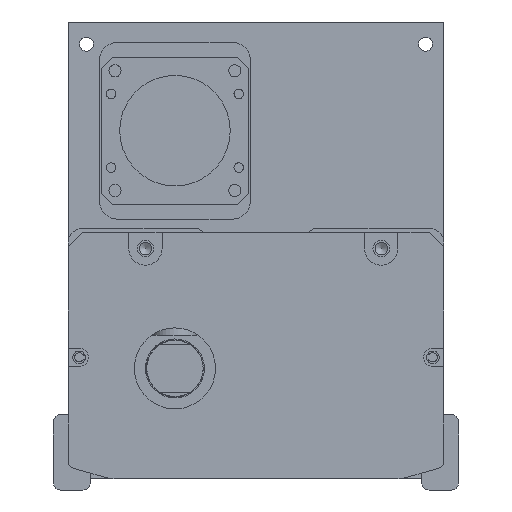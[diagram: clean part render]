
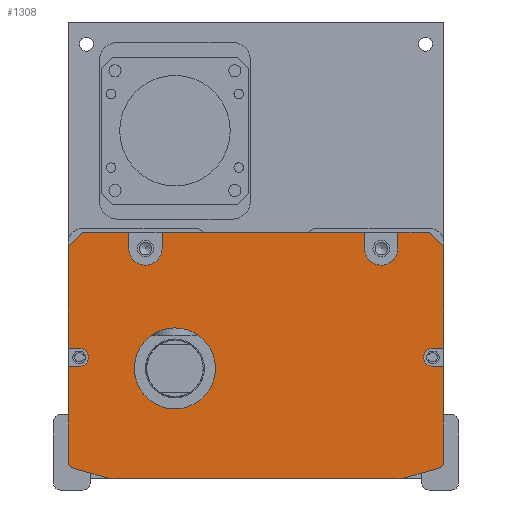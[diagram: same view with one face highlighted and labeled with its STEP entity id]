
A CAD part, front view. The second image highlights one B-rep face of the part: STEP entity #1308.
In plain terms, the highlighted planar face has unit normal (0, -1, 0).
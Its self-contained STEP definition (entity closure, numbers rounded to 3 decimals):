
#1308=ADVANCED_FACE('',(#3107,#3108),#2065,.F.);
#2065=PLANE('',#12679);
#2438=CIRCLE('',#12670,4.5);
#2439=CIRCLE('',#12671,4.5);
#2440=CIRCLE('',#12672,2.5);
#2441=CIRCLE('',#12673,2.);
#2442=CIRCLE('',#12674,10.);
#2443=CIRCLE('',#12675,10.);
#2444=CIRCLE('',#12676,2.);
#2445=CIRCLE('',#12677,2.5);
#2446=CIRCLE('',#12678,11.);
#3107=FACE_BOUND('',#3717,.T.);
#3108=FACE_BOUND('',#3718,.T.);
#3717=EDGE_LOOP('',(#4946,#4947,#4948,#4949,#4950,#4951,#4952,#4953,#4954,
#4955,#4956,#4957,#4958,#4959,#4960,#4961,#4962,#4963,#4964,#4965,#4966,
#4967,#4968,#4969,#4970,#4971,#4972,#4973));
#3718=EDGE_LOOP('',(#4974));
#4946=ORIENTED_EDGE('',*,*,#9535,.T.);
#4947=ORIENTED_EDGE('',*,*,#9536,.T.);
#4948=ORIENTED_EDGE('',*,*,#9537,.T.);
#4949=ORIENTED_EDGE('',*,*,#9538,.F.);
#4950=ORIENTED_EDGE('',*,*,#9539,.T.);
#4951=ORIENTED_EDGE('',*,*,#9540,.F.);
#4952=ORIENTED_EDGE('',*,*,#9541,.T.);
#4953=ORIENTED_EDGE('',*,*,#9542,.F.);
#4954=ORIENTED_EDGE('',*,*,#9543,.T.);
#4955=ORIENTED_EDGE('',*,*,#9544,.F.);
#4956=ORIENTED_EDGE('',*,*,#9545,.T.);
#4957=ORIENTED_EDGE('',*,*,#9546,.T.);
#4958=ORIENTED_EDGE('',*,*,#9547,.T.);
#4959=ORIENTED_EDGE('',*,*,#9548,.T.);
#4960=ORIENTED_EDGE('',*,*,#9549,.T.);
#4961=ORIENTED_EDGE('',*,*,#9550,.T.);
#4962=ORIENTED_EDGE('',*,*,#9551,.T.);
#4963=ORIENTED_EDGE('',*,*,#9552,.T.);
#4964=ORIENTED_EDGE('',*,*,#9553,.T.);
#4965=ORIENTED_EDGE('',*,*,#9554,.T.);
#4966=ORIENTED_EDGE('',*,*,#9555,.T.);
#4967=ORIENTED_EDGE('',*,*,#9556,.T.);
#4968=ORIENTED_EDGE('',*,*,#9557,.T.);
#4969=ORIENTED_EDGE('',*,*,#9558,.T.);
#4970=ORIENTED_EDGE('',*,*,#9559,.T.);
#4971=ORIENTED_EDGE('',*,*,#9560,.T.);
#4972=ORIENTED_EDGE('',*,*,#9561,.T.);
#4973=ORIENTED_EDGE('',*,*,#9562,.T.);
#4974=ORIENTED_EDGE('',*,*,#9563,.T.);
#8327=VERTEX_POINT('',#18117);
#8328=VERTEX_POINT('',#18118);
#8329=VERTEX_POINT('',#18120);
#8330=VERTEX_POINT('',#18122);
#8331=VERTEX_POINT('',#18124);
#8332=VERTEX_POINT('',#18126);
#8333=VERTEX_POINT('',#18128);
#8334=VERTEX_POINT('',#18130);
#8335=VERTEX_POINT('',#18132);
#8336=VERTEX_POINT('',#18134);
#8337=VERTEX_POINT('',#18136);
#8338=VERTEX_POINT('',#18138);
#8339=VERTEX_POINT('',#18140);
#8340=VERTEX_POINT('',#18142);
#8341=VERTEX_POINT('',#18144);
#8342=VERTEX_POINT('',#18146);
#8343=VERTEX_POINT('',#18148);
#8344=VERTEX_POINT('',#18150);
#8345=VERTEX_POINT('',#18152);
#8346=VERTEX_POINT('',#18154);
#8347=VERTEX_POINT('',#18156);
#8348=VERTEX_POINT('',#18158);
#8349=VERTEX_POINT('',#18160);
#8350=VERTEX_POINT('',#18162);
#8351=VERTEX_POINT('',#18164);
#8352=VERTEX_POINT('',#18166);
#8353=VERTEX_POINT('',#18168);
#8354=VERTEX_POINT('',#18170);
#8355=VERTEX_POINT('',#18173);
#9535=EDGE_CURVE('',#8327,#8328,#11138,.T.);
#9536=EDGE_CURVE('',#8328,#8329,#11139,.T.);
#9537=EDGE_CURVE('',#8329,#8330,#11140,.T.);
#9538=EDGE_CURVE('',#8331,#8330,#11141,.T.);
#9539=EDGE_CURVE('',#8331,#8332,#2438,.T.);
#9540=EDGE_CURVE('',#8333,#8332,#11142,.T.);
#9541=EDGE_CURVE('',#8333,#8334,#11143,.T.);
#9542=EDGE_CURVE('',#8335,#8334,#11144,.T.);
#9543=EDGE_CURVE('',#8335,#8336,#2439,.T.);
#9544=EDGE_CURVE('',#8337,#8336,#11145,.T.);
#9545=EDGE_CURVE('',#8337,#8338,#11146,.T.);
#9546=EDGE_CURVE('',#8338,#8339,#11147,.T.);
#9547=EDGE_CURVE('',#8339,#8340,#11148,.T.);
#9548=EDGE_CURVE('',#8340,#8341,#11149,.T.);
#9549=EDGE_CURVE('',#8341,#8342,#2440,.T.);
#9550=EDGE_CURVE('',#8342,#8343,#11150,.T.);
#9551=EDGE_CURVE('',#8343,#8344,#11151,.T.);
#9552=EDGE_CURVE('',#8344,#8345,#2441,.T.);
#9553=EDGE_CURVE('',#8345,#8346,#11152,.T.);
#9554=EDGE_CURVE('',#8346,#8347,#2442,.T.);
#9555=EDGE_CURVE('',#8347,#8348,#11153,.T.);
#9556=EDGE_CURVE('',#8348,#8349,#2443,.T.);
#9557=EDGE_CURVE('',#8349,#8350,#11154,.T.);
#9558=EDGE_CURVE('',#8350,#8351,#2444,.T.);
#9559=EDGE_CURVE('',#8351,#8352,#11155,.T.);
#9560=EDGE_CURVE('',#8352,#8353,#11156,.T.);
#9561=EDGE_CURVE('',#8353,#8354,#2445,.T.);
#9562=EDGE_CURVE('',#8354,#8327,#11157,.T.);
#9563=EDGE_CURVE('',#8355,#8355,#2446,.T.);
#11138=LINE('',#18116,#11900);
#11139=LINE('',#18119,#11901);
#11140=LINE('',#18121,#11902);
#11141=LINE('',#18123,#11903);
#11142=LINE('',#18127,#11904);
#11143=LINE('',#18129,#11905);
#11144=LINE('',#18131,#11906);
#11145=LINE('',#18135,#11907);
#11146=LINE('',#18137,#11908);
#11147=LINE('',#18139,#11909);
#11148=LINE('',#18141,#11910);
#11149=LINE('',#18143,#11911);
#11150=LINE('',#18147,#11912);
#11151=LINE('',#18149,#11913);
#11152=LINE('',#18153,#11914);
#11153=LINE('',#18157,#11915);
#11154=LINE('',#18161,#11916);
#11155=LINE('',#18165,#11917);
#11156=LINE('',#18167,#11918);
#11157=LINE('',#18171,#11919);
#11900=VECTOR('',#14347,1.);
#11901=VECTOR('',#14348,1.);
#11902=VECTOR('',#14349,1.);
#11903=VECTOR('',#14350,1.);
#11904=VECTOR('',#14353,1.);
#11905=VECTOR('',#14354,1.);
#11906=VECTOR('',#14355,1.);
#11907=VECTOR('',#14358,1.);
#11908=VECTOR('',#14359,1.);
#11909=VECTOR('',#14360,1.);
#11910=VECTOR('',#14361,1.);
#11911=VECTOR('',#14362,1.);
#11912=VECTOR('',#14365,1.);
#11913=VECTOR('',#14366,1.);
#11914=VECTOR('',#14369,1.);
#11915=VECTOR('',#14372,1.);
#11916=VECTOR('',#14375,1.);
#11917=VECTOR('',#14378,1.);
#11918=VECTOR('',#14379,1.);
#11919=VECTOR('',#14382,1.);
#12670=AXIS2_PLACEMENT_3D('',#18125,#14351,#14352);
#12671=AXIS2_PLACEMENT_3D('',#18133,#14356,#14357);
#12672=AXIS2_PLACEMENT_3D('',#18145,#14363,#14364);
#12673=AXIS2_PLACEMENT_3D('',#18151,#14367,#14368);
#12674=AXIS2_PLACEMENT_3D('',#18155,#14370,#14371);
#12675=AXIS2_PLACEMENT_3D('',#18159,#14373,#14374);
#12676=AXIS2_PLACEMENT_3D('',#18163,#14376,#14377);
#12677=AXIS2_PLACEMENT_3D('',#18169,#14380,#14381);
#12678=AXIS2_PLACEMENT_3D('',#18172,#14383,#14384);
#12679=AXIS2_PLACEMENT_3D('',#18174,#14385,#14386);
#14347=DIRECTION('',(0.,0.,1.));
#14348=DIRECTION('',(-0.707,0.,0.707));
#14349=DIRECTION('',(-1.,0.,0.));
#14350=DIRECTION('',(0.,0.,1.));
#14351=DIRECTION('',(0.,1.,0.));
#14352=DIRECTION('',(0.,0.,1.));
#14353=DIRECTION('',(0.,0.,-1.));
#14354=DIRECTION('',(-1.,0.,0.));
#14355=DIRECTION('',(0.,0.,1.));
#14356=DIRECTION('',(0.,1.,0.));
#14357=DIRECTION('',(0.,0.,1.));
#14358=DIRECTION('',(0.,0.,-1.));
#14359=DIRECTION('',(-1.,0.,0.));
#14360=DIRECTION('',(-0.707,0.,-0.707));
#14361=DIRECTION('',(0.,0.,-1.));
#14362=DIRECTION('',(1.,0.,0.));
#14363=DIRECTION('',(0.,1.,0.));
#14364=DIRECTION('',(0.,0.,1.));
#14365=DIRECTION('',(-1.,0.,0.));
#14366=DIRECTION('',(0.,0.,-1.));
#14367=DIRECTION('',(0.,-1.,0.));
#14368=DIRECTION('',(0.,0.,1.));
#14369=DIRECTION('',(0.963,0.,-0.269));
#14370=DIRECTION('',(0.,-1.,0.));
#14371=DIRECTION('',(0.,0.,1.));
#14372=DIRECTION('',(1.,0.,0.));
#14373=DIRECTION('',(0.,-1.,0.));
#14374=DIRECTION('',(0.,0.,-1.));
#14375=DIRECTION('',(0.963,0.,0.269));
#14376=DIRECTION('',(0.,-1.,0.));
#14377=DIRECTION('',(0.,0.,-1.));
#14378=DIRECTION('',(0.,0.,1.));
#14379=DIRECTION('',(-1.,0.,0.));
#14380=DIRECTION('',(0.,1.,0.));
#14381=DIRECTION('',(0.,0.,1.));
#14382=DIRECTION('',(1.,0.,0.));
#14383=DIRECTION('',(0.,1.,0.));
#14384=DIRECTION('',(0.,0.,1.));
#14385=DIRECTION('',(0.,1.,0.));
#14386=DIRECTION('',(-1.,0.,0.));
#18116=CARTESIAN_POINT('',(47.808,-67.5,-1.));
#18117=CARTESIAN_POINT('',(47.808,-67.5,-32.5));
#18118=CARTESIAN_POINT('',(47.808,-67.5,-5.));
#18119=CARTESIAN_POINT('',(43.808,-67.5,-1.));
#18120=CARTESIAN_POINT('',(43.808,-67.5,-1.));
#18121=CARTESIAN_POINT('',(-3.192,-67.5,-1.));
#18122=CARTESIAN_POINT('',(35.308,-67.5,-1.));
#18123=CARTESIAN_POINT('',(35.308,-67.5,-1.));
#18124=CARTESIAN_POINT('',(35.308,-67.5,-5.5));
#18125=CARTESIAN_POINT('',(30.808,-67.5,-5.5));
#18126=CARTESIAN_POINT('',(26.308,-67.5,-5.5));
#18127=CARTESIAN_POINT('',(26.308,-67.5,-1.));
#18128=CARTESIAN_POINT('',(26.308,-67.5,-1.));
#18129=CARTESIAN_POINT('',(-54.192,-67.5,-1.));
#18130=CARTESIAN_POINT('',(-28.692,-67.5,-1.));
#18131=CARTESIAN_POINT('',(-28.692,-67.5,-3.5));
#18132=CARTESIAN_POINT('',(-28.692,-67.5,-5.5));
#18133=CARTESIAN_POINT('',(-33.192,-67.5,-5.5));
#18134=CARTESIAN_POINT('',(-37.692,-67.5,-5.5));
#18135=CARTESIAN_POINT('',(-37.692,-67.5,-1.));
#18136=CARTESIAN_POINT('',(-37.692,-67.5,-1.));
#18137=CARTESIAN_POINT('',(-54.192,-67.5,-1.));
#18138=CARTESIAN_POINT('',(-50.192,-67.5,-1.));
#18139=CARTESIAN_POINT('',(-54.192,-67.5,-5.));
#18140=CARTESIAN_POINT('',(-54.192,-67.5,-5.));
#18141=CARTESIAN_POINT('',(-54.192,-67.5,-62.));
#18142=CARTESIAN_POINT('',(-54.192,-67.5,-32.5));
#18143=CARTESIAN_POINT('',(-3.192,-67.5,-32.5));
#18144=CARTESIAN_POINT('',(-51.192,-67.5,-32.5));
#18145=CARTESIAN_POINT('',(-51.192,-67.5,-35.));
#18146=CARTESIAN_POINT('',(-51.192,-67.5,-37.5));
#18147=CARTESIAN_POINT('',(-3.192,-67.5,-37.5));
#18148=CARTESIAN_POINT('',(-54.192,-67.5,-37.5));
#18149=CARTESIAN_POINT('',(-54.192,-67.5,-62.));
#18150=CARTESIAN_POINT('',(-54.192,-67.5,-63.212));
#18151=CARTESIAN_POINT('',(-52.192,-67.5,-63.212));
#18152=CARTESIAN_POINT('',(-52.731,-67.5,-65.138));
#18153=CARTESIAN_POINT('',(-55.807,-67.5,-64.279));
#18154=CARTESIAN_POINT('',(-43.809,-67.5,-67.631));
#18155=CARTESIAN_POINT('',(-41.118,-67.5,-58.));
#18156=CARTESIAN_POINT('',(-41.118,-67.5,-68.));
#18157=CARTESIAN_POINT('',(-54.692,-67.5,-68.));
#18158=CARTESIAN_POINT('',(34.733,-67.5,-68.));
#18159=CARTESIAN_POINT('',(34.733,-67.5,-58.));
#18160=CARTESIAN_POINT('',(37.424,-67.5,-67.631));
#18161=CARTESIAN_POINT('',(49.422,-67.5,-64.279));
#18162=CARTESIAN_POINT('',(46.346,-67.5,-65.138));
#18163=CARTESIAN_POINT('',(45.808,-67.5,-63.212));
#18164=CARTESIAN_POINT('',(47.808,-67.5,-63.212));
#18165=CARTESIAN_POINT('',(47.808,-67.5,-1.));
#18166=CARTESIAN_POINT('',(47.808,-67.5,-37.5));
#18167=CARTESIAN_POINT('',(-3.192,-67.5,-37.5));
#18168=CARTESIAN_POINT('',(44.808,-67.5,-37.5));
#18169=CARTESIAN_POINT('',(44.808,-67.5,-35.));
#18170=CARTESIAN_POINT('',(44.808,-67.5,-32.5));
#18171=CARTESIAN_POINT('',(-3.192,-67.5,-32.5));
#18172=CARTESIAN_POINT('',(-25.192,-67.5,-38.));
#18173=CARTESIAN_POINT('',(-25.192,-67.5,-27.));
#18174=CARTESIAN_POINT('',(-3.192,-67.5,-1.));
